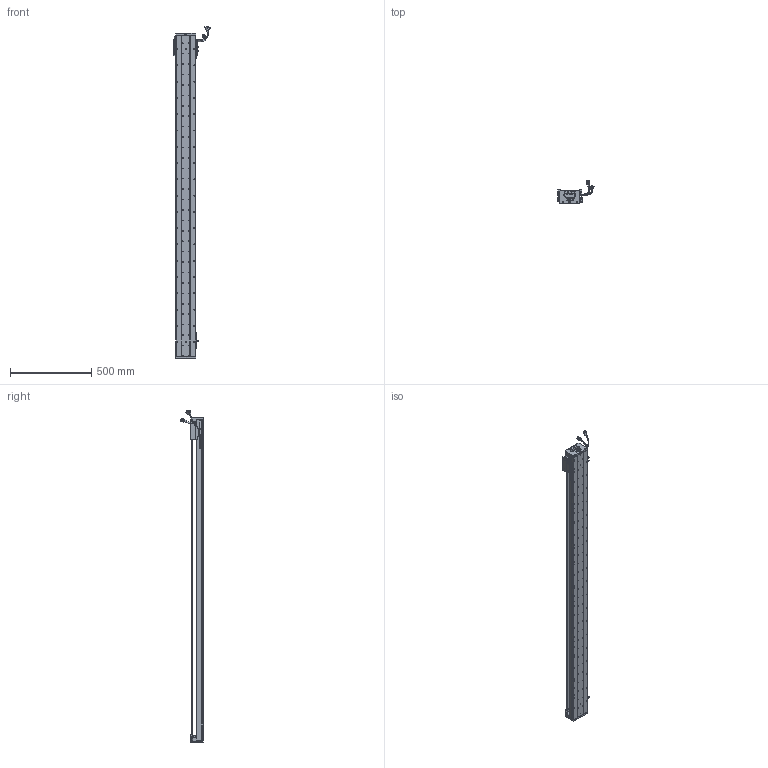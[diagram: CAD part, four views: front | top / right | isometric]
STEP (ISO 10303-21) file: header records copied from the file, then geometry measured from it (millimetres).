
FILE_DESCRIPTION (( 'STEP AP203' ), '1' );
FILE_NAME ('Z1-RY120D-1-L500-B-K.SLDASM_1800.step', '2021-05-17T03:49:01', ( '盈信电脑' ), ( '东莞市道滘镇水果街19号' ), 'SwSTEP 2.0', 'SolidWorks 2016', '' );
FILE_SCHEMA (( 'CONFIG_CONTROL_DESIGN' ));
Length unit declared in the file: millimetre
Products named in the file (37): Z1-RY120铝滑块（21款）; SCALE-Part-1; COVER-Part-1; 140蚥薯蝶輸; SCALE; 覜茼ん672; 120-Z-臏賑輸盄裔(21遴); Z-RY120D詩湍狟揤裔; HARNESS; 672嫖萇羲壽假蚾釱; SCREW-M1.6; HARNESS-Part-1; SCREW-M1.6-3; SCREW-M1.7; PSLH080_PSLF2; SEAL-Part-1; SCREW-M1.7-1; 140雄赽晤鎢ん堤盄; HARNESS-Part-2; PBU_SHEET; 榋妏寠巭燃_暯_M2_2; SCREW-M1.6-2; HOLDER0; Z1-RY120-500-倰第菁釱_1800; SHIELDPLATE; SCALE-Part-2; Z1-RY120-L500詩湍100mm遵_1800; Z1-RY120D-1-L500-B-K.SLDASM_1800; LABEL; Z-RY120D詩湍奻揤裔; 080黍杅芛假蚾釱21遴; COVER; SEAL; RY100FB-遵嫖萇覜茼え; Z-120詩湍傷裔啣; LABEL-Part-1; SCREW-M1.6-1
Assembly tree (43 placements, depth 4):
  Z1-RY120D-1-L500-B-K.SLDASM_1800
    Z1-RY120-500-倰第菁釱_1800
    覜茼ん672  x3
    672嫖萇羲壽假蚾釱  x2
    Z1-RY120铝滑块（21款）
    PSLH080_PSLF2
      SCALE
        SCALE-Part-1
        SCALE-Part-2
      HARNESS
        HARNESS-Part-1
        HARNESS-Part-2
      LABEL
        LABEL-Part-1
      COVER
        COVER-Part-1
      SEAL
        SEAL-Part-1
      榋妏寠巭燃_暯_M2_2
      SHIELDPLATE
      SCREW-M1.7
      SCREW-M1.7-1
      PBU_SHEET
      SCREW-M1.6
      SCREW-M1.6-1
      SCREW-M1.6-2
      SCREW-M1.6-3
      HOLDER0
    080黍杅芛假蚾釱21遴
    120-Z-臏賑輸盄裔(21遴)
    140雄赽晤鎢ん堤盄
    140蚥薯蝶輸  x2
    RY100FB-遵嫖萇覜茼え
    Z-120詩湍傷裔啣  x2
    Z-RY120D詩湍奻揤裔  x2
    Z-RY120D詩湍狟揤裔  x2
    Z1-RY120-L500詩湍100mm遵_1800
Bounding box: 222.88 x 140.94 x 2038.99 mm (x, y, z)
Volume: 4664204.3 mm3; surface area: 1665538.1 mm2
Topology: 38 solids, 38 shells, 3239 faces, 9076 edges, 5732 vertices
Faces by surface type: cylinder 1606, plane 1185, cone 326, torus 69, bspline 53
Entity records: 104721 total; most frequent: CARTESIAN_POINT 30876, ORIENTED_EDGE 15024, DIRECTION 14030, EDGE_CURVE 7512, AXIS2_PLACEMENT_3D 5148, VERTEX_POINT 4852, VECTOR 3734, LINE 3734
